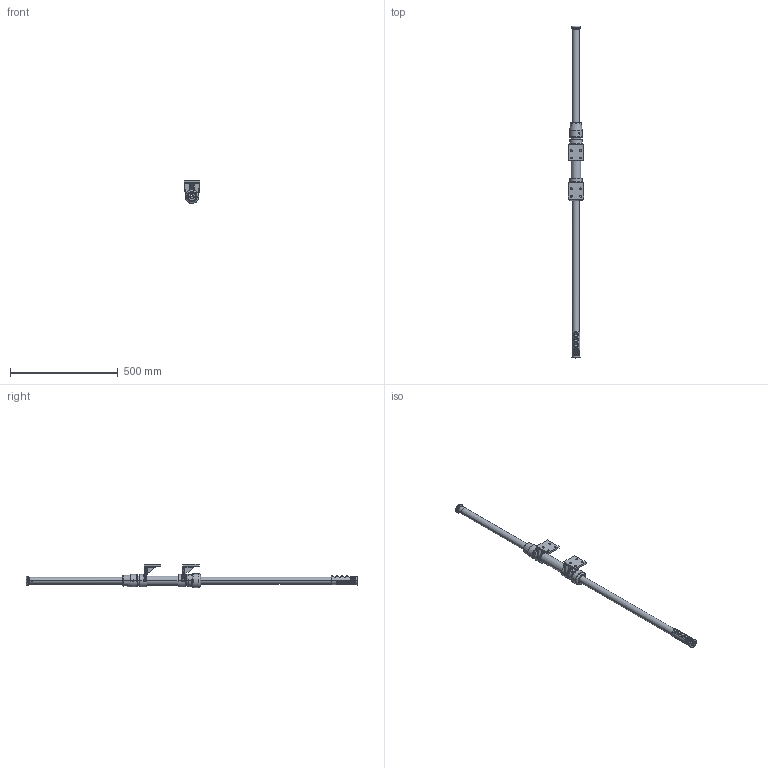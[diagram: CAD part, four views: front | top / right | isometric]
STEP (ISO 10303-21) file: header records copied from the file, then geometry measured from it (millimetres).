
FILE_DESCRIPTION((''),'2;1');
FILE_NAME('PUSHUP_SW0001','2014-04-07T',('cfeen'),(''),'PRO/ENGINEER BY PARAMETRIC TECHNOLOGY CORPORATION, 2011180','PRO/ENGINEER BY PARAMETRIC TECHNOLOGY CORPORATION, 2011180','');
FILE_SCHEMA(('CONFIG_CONTROL_DESIGN'));
Length unit declared in the file: inch
Products named in the file (1): PUSHUP_SW0001
Bounding box: 72.11 x 1541.78 x 107.78 mm (x, y, z)
Volume: 872574.3 mm3; surface area: 493530.5 mm2
Topology: 4 solids, 4 shells, 1072 faces, 2668 edges, 1698 vertices
Faces by surface type: plane 671, cylinder 222, cone 138, torus 20, bspline 17, sphere 4
Entity records: 34826 total; most frequent: CARTESIAN_POINT 9094, ORIENTED_EDGE 5336, DIRECTION 5178, EDGE_CURVE 2668, VECTOR 2012, LINE 2012, VERTEX_POINT 1698, AXIS2_PLACEMENT_3D 1583
